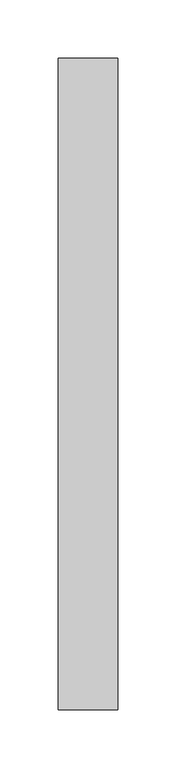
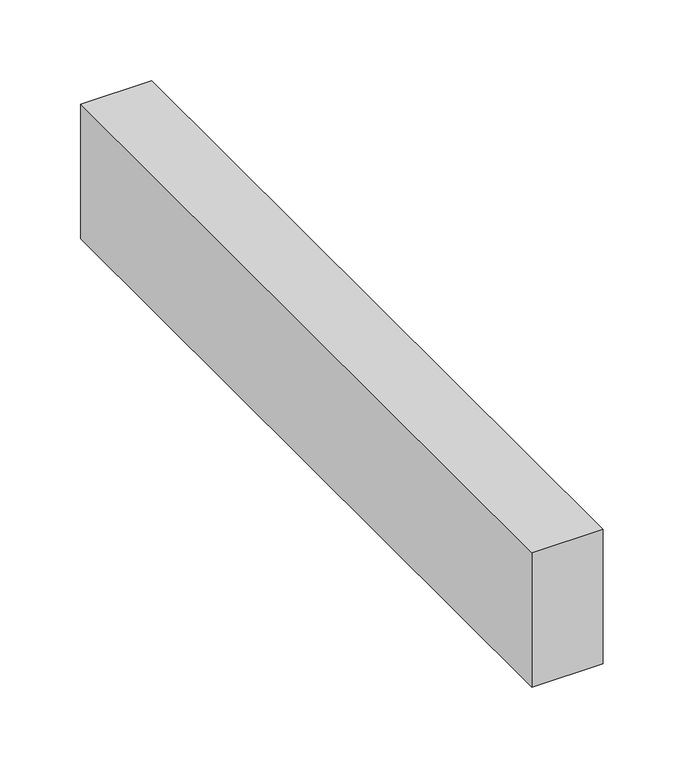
"""IFC4 building model written with IfcOpenShell, lengths in millimetres: proxy geometry, H-MP-TUBE1."""

from ifc_helpers import new_model, si_unit, frame, origin, place, context, project, spatial, polyline, outline, extrude, source, transform, mapped, element, save


def generic_models_0a960df9(model_context):
    return source(origin(), model_context, "Body", "SweptSolid", [
        extrude(outline(polyline([(50.8, 0.0), (0.0, 0.0), (0.0, 558.8), (50.8, 558.8), (50.8, 0.0)])), frame((0.0, 0.0, -76.2), z_axis=(0.0, 0.0, 1.0), x_axis=(1.0, 0.0, 0.0)), (0.0, 0.0, 1.0), 101.6),
    ])


if __name__ == "__main__":
    model = new_model("IFC4")
    model_context = context("Model", 3, world=origin())
    ifc_project = project(units=[si_unit("LENGTHUNIT", "METRE", prefix="MILLI")], contexts=[model_context])
    site = spatial("IfcSite", under=ifc_project)
    building = spatial("IfcBuilding", under=site)
    placement = place(None, origin())
    generic_models_shape = generic_models_0a960df9(model_context)
    element("IfcBuildingElementProxy", 1, Name="H-MP-TUBE1", ObjectType="H-MP-TUBE1", at=placement, inside=building, context=model_context, shape_type="MappedRepresentation", body=[
        mapped(generic_models_shape, transform((0.0, 0.0, 0.0), x_axis=(1.0, 0.0, 0.0), y_axis=(0.0, 1.0, 0.0), z_axis=(0.0, 0.0, 1.0))),
    ])
    save(model, "model.ifc")
